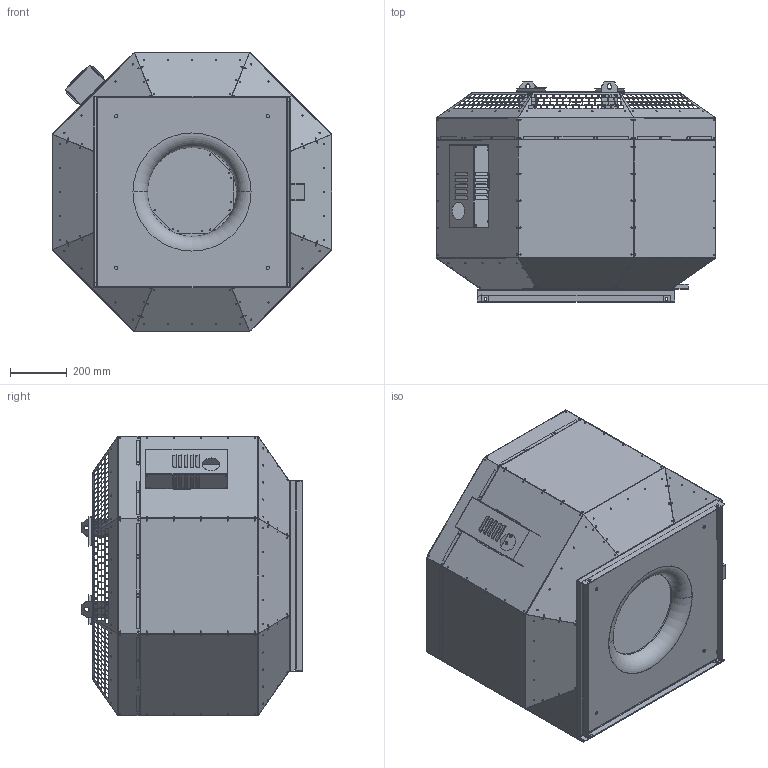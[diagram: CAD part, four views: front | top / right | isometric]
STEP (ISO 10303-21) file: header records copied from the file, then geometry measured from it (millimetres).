
FILE_DESCRIPTION (( 'STEP AP203' ), '1' );
FILE_NAME ('144623-00_DVNI500D4F430_step.step', '2018-07-31T12:44:18', ( '' ), ( '' ), 'SwSTEP 2.0', 'SolidWorks 2017', '' );
FILE_SCHEMA (( 'CONFIG_CONTROL_DESIGN' ));
Length unit declared in the file: millimetre
Products named in the file (1): 144623-00_DVNI500D4F430_step
Bounding box: 984.02 x 776.32 x 984.02 mm (x, y, z)
Surface area: 6956895.6 mm2 (no closed solid volume)
Topology: 0 solids, 49 shells, 1554 faces, 11602 edges, 9632 vertices
Faces by surface type: plane 1255, cylinder 258, bspline 39, torus 2
Entity records: 126481 total; most frequent: CARTESIAN_POINT 39349, DIRECTION 16095, ORIENTED_EDGE 14359, EDGE_CURVE 11602, VERTEX_POINT 9632, LINE 9473, VECTOR 9473, EDGE_LOOP 3916
